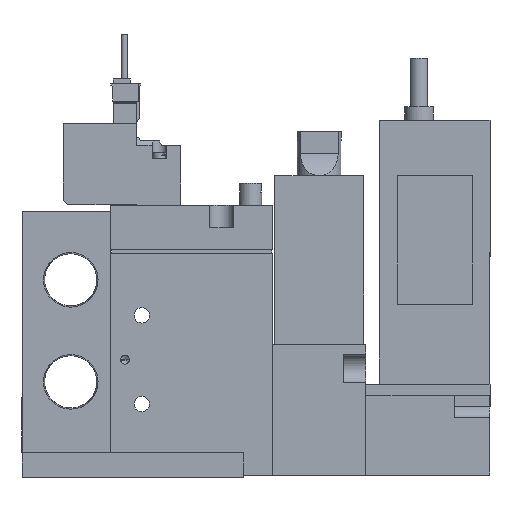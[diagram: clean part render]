
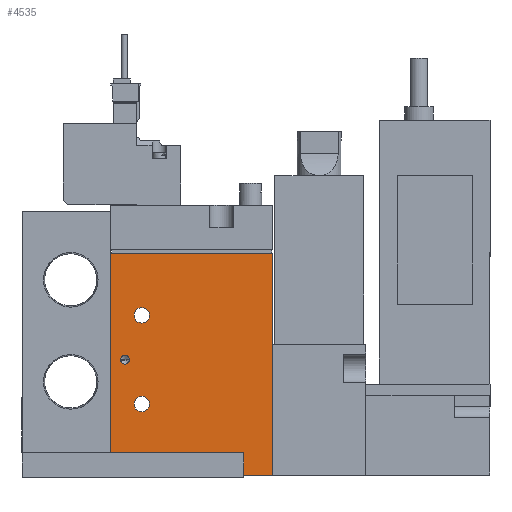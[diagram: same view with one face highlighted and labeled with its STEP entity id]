
A CAD part, left-side view. The second image highlights one B-rep face of the part: STEP entity #4535.
In plain terms, the highlighted planar face has unit normal (-1, 0, 0) as drawn and (1, 0, 0) by its records, which use the part's own axes.
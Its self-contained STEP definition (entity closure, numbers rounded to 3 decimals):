
#4535=ADVANCED_FACE('',(#6960,#6961,#6962,#6963),#6964,.F.);
#6960=FACE_BOUND('',#12242,.T.);
#6961=FACE_BOUND('',#12243,.T.);
#6962=FACE_BOUND('',#12244,.T.);
#6963=FACE_OUTER_BOUND('',#12245,.T.);
#6964=PLANE('',#12246);
#12242=EDGE_LOOP('',(#17942));
#12243=EDGE_LOOP('',(#17943));
#12244=EDGE_LOOP('',(#17944));
#12245=EDGE_LOOP('',(#17945,#17946,#17947,#17948));
#12246=AXIS2_PLACEMENT_3D('',#17949,#17950,#17951);
#17942=ORIENTED_EDGE('',*,*,#35351,.F.);
#17943=ORIENTED_EDGE('',*,*,#35353,.T.);
#17944=ORIENTED_EDGE('',*,*,#35354,.T.);
#17945=ORIENTED_EDGE('',*,*,#35344,.T.);
#17946=ORIENTED_EDGE('',*,*,#35341,.F.);
#17947=ORIENTED_EDGE('',*,*,#35345,.F.);
#17948=ORIENTED_EDGE('',*,*,#35337,.T.);
#17949=CARTESIAN_POINT('',(8.5,-19.444,50.0));
#17950=DIRECTION('',(-1.0,0.0,0.0));
#17951=DIRECTION('',(0.0,0.0,1.0));
#35337=EDGE_CURVE('',#40976,#40974,#40977,.T.);
#35341=EDGE_CURVE('',#40981,#40979,#40983,.T.);
#35344=EDGE_CURVE('',#40974,#40979,#40988,.T.);
#35345=EDGE_CURVE('',#40976,#40981,#40989,.T.);
#35351=EDGE_CURVE('',#40998,#40998,#40999,.T.);
#35353=EDGE_CURVE('',#41000,#41000,#41001,.T.);
#35354=EDGE_CURVE('',#41002,#41002,#41003,.T.);
#40974=VERTEX_POINT('',#50460);
#40976=VERTEX_POINT('',#50463);
#40977=LINE('',#50464,#50465);
#40979=VERTEX_POINT('',#50468);
#40981=VERTEX_POINT('',#50471);
#40983=LINE('',#50474,#50475);
#40988=LINE('',#50480,#50481);
#40989=LINE('',#50482,#50483);
#40998=VERTEX_POINT('',#50492);
#40999=CIRCLE('',#50493,1.0);
#41000=VERTEX_POINT('',#50494);
#41001=CIRCLE('',#50495,1.75);
#41002=VERTEX_POINT('',#50496);
#41003=CIRCLE('',#50497,1.75);
#50460=CARTESIAN_POINT('',(8.5,-19.444,0.0));
#50463=CARTESIAN_POINT('',(8.5,-19.444,50.0));
#50464=CARTESIAN_POINT('',(8.5,-19.444,50.0));
#50465=VECTOR('',#64366,1.0);
#50468=CARTESIAN_POINT('',(8.5,17.056,0.0));
#50471=CARTESIAN_POINT('',(8.5,17.056,50.0));
#50474=CARTESIAN_POINT('',(8.5,17.056,50.0));
#50475=VECTOR('',#64370,1.0);
#50480=CARTESIAN_POINT('',(8.5,-19.444,0.0));
#50481=VECTOR('',#64377,1.0);
#50482=CARTESIAN_POINT('',(8.5,-19.444,50.0));
#50483=VECTOR('',#64378,1.0);
#50492=CARTESIAN_POINT('',(8.5,-17.244,26.0));
#50493=AXIS2_PLACEMENT_3D('',#64391,#64392,#64393);
#50494=CARTESIAN_POINT('',(8.5,-10.694,36.0));
#50495=AXIS2_PLACEMENT_3D('',#64394,#64395,#64396);
#50496=CARTESIAN_POINT('',(8.5,-10.694,16.0));
#50497=AXIS2_PLACEMENT_3D('',#64397,#64398,#64399);
#64366=DIRECTION('',(0.0,0.0,-1.0));
#64370=DIRECTION('',(0.0,0.0,-1.0));
#64377=DIRECTION('',(0.0,1.0,0.0));
#64378=DIRECTION('',(0.0,1.0,0.0));
#64391=CARTESIAN_POINT('',(8.5,-16.244,26.0));
#64392=DIRECTION('',(1.0,0.,0.0));
#64393=DIRECTION('',(0.,-1.0,0.0));
#64394=CARTESIAN_POINT('',(8.5,-12.444,36.0));
#64395=DIRECTION('',(-1.0,0.0,0.0));
#64396=DIRECTION('',(0.0,1.0,0.0));
#64397=CARTESIAN_POINT('',(8.5,-12.444,16.0));
#64398=DIRECTION('',(-1.0,0.0,0.0));
#64399=DIRECTION('',(0.0,1.0,0.0));
